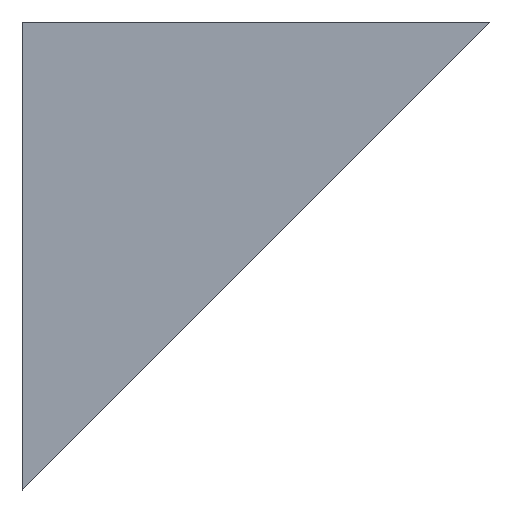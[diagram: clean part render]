
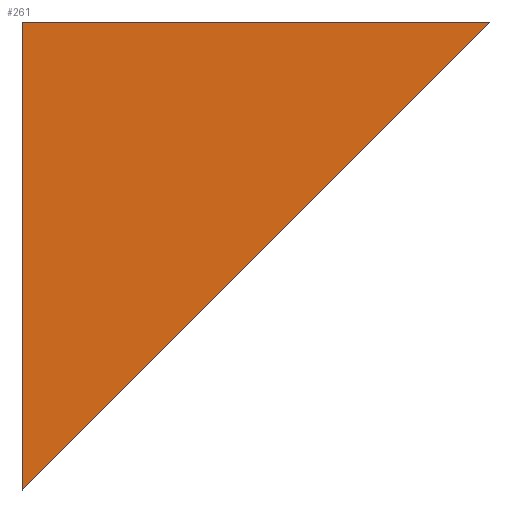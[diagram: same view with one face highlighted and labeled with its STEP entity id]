
A CAD part, top view. The second image highlights one B-rep face of the part: STEP entity #261.
In plain terms, the highlighted planar face has unit normal (0, 0, 1).
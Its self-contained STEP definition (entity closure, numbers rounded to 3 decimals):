
#24 = VERTEX_POINT('',#25);
#25 = CARTESIAN_POINT('',(0.,0.,6.));
#32 = PLANE('',#33);
#33 = AXIS2_PLACEMENT_3D('',#34,#35,#36);
#34 = CARTESIAN_POINT('',(0.,0.,0.));
#35 = DIRECTION('',(0.,1.,0.));
#36 = DIRECTION('',(1.,0.,0.));
#44 = PLANE('',#45);
#45 = AXIS2_PLACEMENT_3D('',#46,#47,#48);
#46 = CARTESIAN_POINT('',(0.,-150.,0.));
#47 = DIRECTION('',(-1.,0.,0.));
#48 = DIRECTION('',(0.,1.,0.));
#56 = EDGE_CURVE('',#24,#57,#59,.T.);
#57 = VERTEX_POINT('',#58);
#58 = CARTESIAN_POINT('',(150.,0.,6.));
#59 = SURFACE_CURVE('',#60,(#64,#71),.PCURVE_S1.);
#60 = LINE('',#61,#62);
#61 = CARTESIAN_POINT('',(0.,0.,6.));
#62 = VECTOR('',#63,1.);
#63 = DIRECTION('',(1.,0.,0.));
#64 = PCURVE('',#32,#65);
#65 = DEFINITIONAL_REPRESENTATION('',(#66),#70);
#66 = LINE('',#67,#68);
#67 = CARTESIAN_POINT('',(0.,-6.));
#68 = VECTOR('',#69,1.);
#69 = DIRECTION('',(1.,0.));
#70 = ( GEOMETRIC_REPRESENTATION_CONTEXT(2) 
PARAMETRIC_REPRESENTATION_CONTEXT() REPRESENTATION_CONTEXT('2D SPACE',''
  ) );
#71 = PCURVE('',#72,#77);
#72 = PLANE('',#73);
#73 = AXIS2_PLACEMENT_3D('',#74,#75,#76);
#74 = CARTESIAN_POINT('',(53.033,-53.033,6.));
#75 = DIRECTION('',(-0.,-0.,-1.));
#76 = DIRECTION('',(-1.,0.,0.));
#77 = DEFINITIONAL_REPRESENTATION('',(#78),#82);
#78 = LINE('',#79,#80);
#79 = CARTESIAN_POINT('',(53.033,53.033));
#80 = VECTOR('',#81,1.);
#81 = DIRECTION('',(-1.,0.));
#82 = ( GEOMETRIC_REPRESENTATION_CONTEXT(2) 
PARAMETRIC_REPRESENTATION_CONTEXT() REPRESENTATION_CONTEXT('2D SPACE',''
  ) );
#100 = PLANE('',#101);
#101 = AXIS2_PLACEMENT_3D('',#102,#103,#104);
#102 = CARTESIAN_POINT('',(150.,0.,0.));
#103 = DIRECTION('',(0.707,-0.707,0.));
#104 = DIRECTION('',(-0.707,-0.707,0.));
#142 = EDGE_CURVE('',#57,#143,#145,.T.);
#143 = VERTEX_POINT('',#144);
#144 = CARTESIAN_POINT('',(0.,-150.,6.));
#145 = SURFACE_CURVE('',#146,(#150,#157),.PCURVE_S1.);
#146 = LINE('',#147,#148);
#147 = CARTESIAN_POINT('',(150.,0.,6.));
#148 = VECTOR('',#149,1.);
#149 = DIRECTION('',(-0.707,-0.707,0.));
#150 = PCURVE('',#100,#151);
#151 = DEFINITIONAL_REPRESENTATION('',(#152),#156);
#152 = LINE('',#153,#154);
#153 = CARTESIAN_POINT('',(0.,-6.));
#154 = VECTOR('',#155,1.);
#155 = DIRECTION('',(1.,0.));
#156 = ( GEOMETRIC_REPRESENTATION_CONTEXT(2) 
PARAMETRIC_REPRESENTATION_CONTEXT() REPRESENTATION_CONTEXT('2D SPACE',''
  ) );
#157 = PCURVE('',#72,#158);
#158 = DEFINITIONAL_REPRESENTATION('',(#159),#163);
#159 = LINE('',#160,#161);
#160 = CARTESIAN_POINT('',(-96.967,53.033));
#161 = VECTOR('',#162,1.);
#162 = DIRECTION('',(0.707,-0.707));
#163 = ( GEOMETRIC_REPRESENTATION_CONTEXT(2) 
PARAMETRIC_REPRESENTATION_CONTEXT() REPRESENTATION_CONTEXT('2D SPACE',''
  ) );
#213 = EDGE_CURVE('',#143,#24,#214,.T.);
#214 = SURFACE_CURVE('',#215,(#219,#226),.PCURVE_S1.);
#215 = LINE('',#216,#217);
#216 = CARTESIAN_POINT('',(0.,-150.,6.));
#217 = VECTOR('',#218,1.);
#218 = DIRECTION('',(0.,1.,0.));
#219 = PCURVE('',#44,#220);
#220 = DEFINITIONAL_REPRESENTATION('',(#221),#225);
#221 = LINE('',#222,#223);
#222 = CARTESIAN_POINT('',(0.,-6.));
#223 = VECTOR('',#224,1.);
#224 = DIRECTION('',(1.,0.));
#225 = ( GEOMETRIC_REPRESENTATION_CONTEXT(2) 
PARAMETRIC_REPRESENTATION_CONTEXT() REPRESENTATION_CONTEXT('2D SPACE',''
  ) );
#226 = PCURVE('',#72,#227);
#227 = DEFINITIONAL_REPRESENTATION('',(#228),#232);
#228 = LINE('',#229,#230);
#229 = CARTESIAN_POINT('',(53.033,-96.967));
#230 = VECTOR('',#231,1.);
#231 = DIRECTION('',(0.,1.));
#232 = ( GEOMETRIC_REPRESENTATION_CONTEXT(2) 
PARAMETRIC_REPRESENTATION_CONTEXT() REPRESENTATION_CONTEXT('2D SPACE',''
  ) );
#261 = ADVANCED_FACE('',(#262),#72,.F.);
#262 = FACE_BOUND('',#263,.F.);
#263 = EDGE_LOOP('',(#264,#265,#266));
#264 = ORIENTED_EDGE('',*,*,#56,.T.);
#265 = ORIENTED_EDGE('',*,*,#142,.T.);
#266 = ORIENTED_EDGE('',*,*,#213,.T.);
